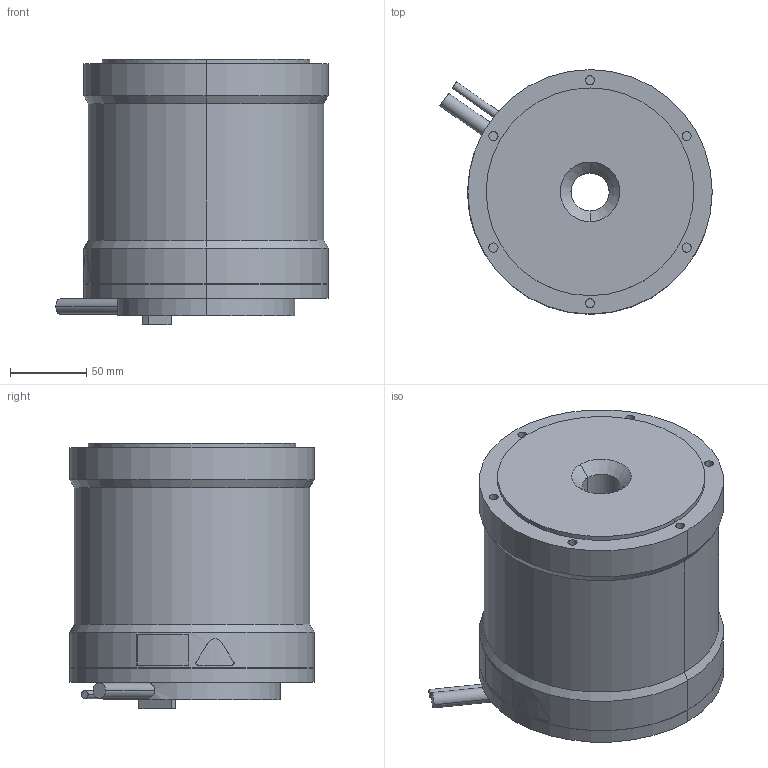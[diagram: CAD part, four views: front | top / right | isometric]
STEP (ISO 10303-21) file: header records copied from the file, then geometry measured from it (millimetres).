
FILE_DESCRIPTION (( 'STEP AP203' ), '1' );
FILE_NAME ('sgm7d_34g_c4_.STEP', '2016-02-22T08:21:48', ( '' ), ( '' ), 'SwSTEP 2.0', 'SolidWorks 2010', '' );
FILE_SCHEMA (( 'CONFIG_CONTROL_DESIGN' ));
Length unit declared in the file: millimetre
Products named in the file (1): sgm7d_34g_c4_
Bounding box: 178.36 x 160 x 174 mm (x, y, z)
Volume: 3027507.8 mm3; surface area: 142336.5 mm2
Topology: 1 solids, 1 shells, 188 faces, 425 edges, 280 vertices
Faces by surface type: cylinder 106, plane 71, cone 6, bspline 5
Entity records: 5792 total; most frequent: CARTESIAN_POINT 1327, DIRECTION 985, ORIENTED_EDGE 850, EDGE_CURVE 425, AXIS2_PLACEMENT_3D 396, VERTEX_POINT 280, EDGE_LOOP 231, CIRCLE 212
